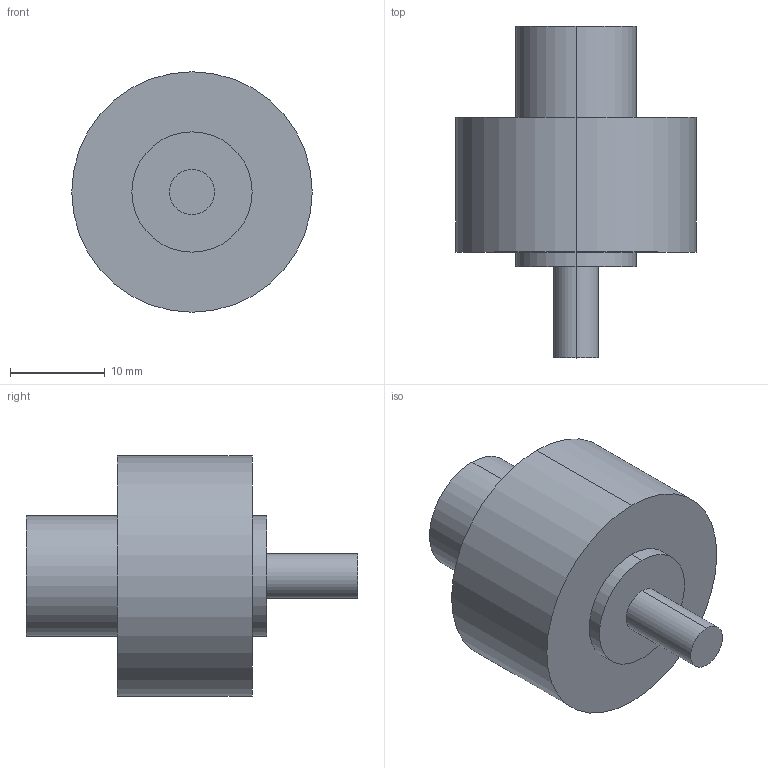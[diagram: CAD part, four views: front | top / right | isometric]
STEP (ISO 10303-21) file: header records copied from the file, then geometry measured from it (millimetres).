
FILE_DESCRIPTION (( 'STEP AP214' ), '1' );
FILE_NAME ('SS1432-100KG-M-F.STEP', '2024-09-04T16:23:15', ( '' ), ( '' ), 'SwSTEP 2.0', 'SolidWorks 2008', '' );
FILE_SCHEMA (( 'AUTOMOTIVE_DESIGN' ));
Length unit declared in the file: inch
Products named in the file (1): SS1432-100KG-M-F
Bounding box: 25.4 x 35.05 x 25.4 mm (x, y, z)
Volume: 8666.3 mm3; surface area: 2863.3 mm2
Topology: 1 solids, 1 shells, 17 faces, 34 edges, 21 vertices
Faces by surface type: cylinder 10, plane 5, cone 2
Entity records: 491 total; most frequent: DIRECTION 88, CARTESIAN_POINT 71, ORIENTED_EDGE 64, AXIS2_PLACEMENT_3D 38, EDGE_CURVE 32, VERTEX_POINT 21, EDGE_LOOP 21, CIRCLE 20
